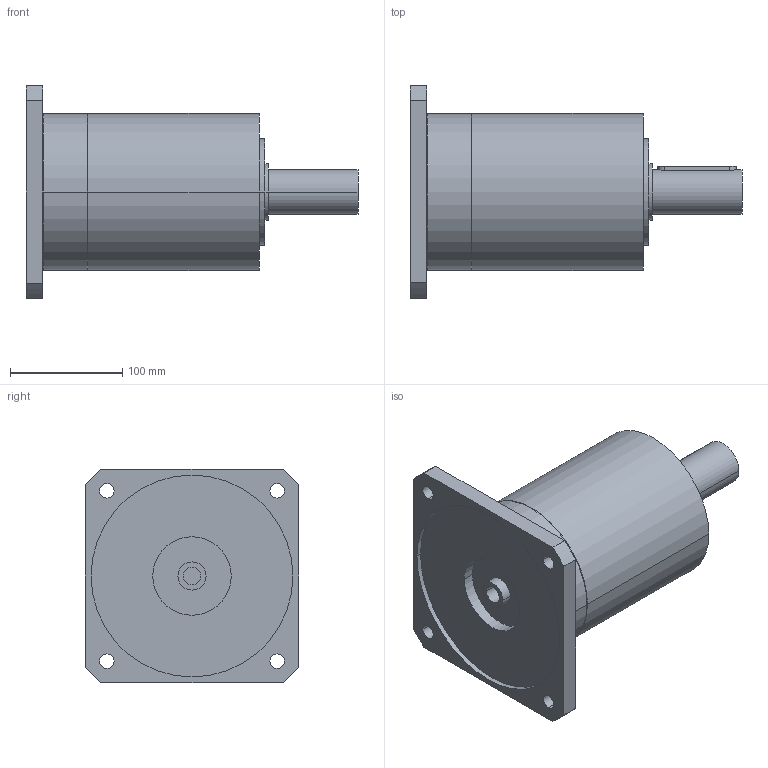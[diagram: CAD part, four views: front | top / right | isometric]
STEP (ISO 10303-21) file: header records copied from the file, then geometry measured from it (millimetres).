
FILE_DESCRIPTION(('CoCreate Modeling STEP Export'),'2;1');
FILE_NAME('GPR150_ig-9-12-16-20-28-35_40_B14_16_P06.stp','2014-08-19T17:03:00',(''),(''),'CoCreate Modeling STEP processor for AP214 (Solid Model)','CoCreate Modeling 16.00C 25-Feb-2009 (C) Parametric Technology GmbH','');
FILE_SCHEMA(('AUTOMOTIVE_DESIGN { 1 0 10303 214 1 1 1 1 }'));
Length unit declared in the file: millimetre
Products named in the file (2): GPR150_ig-9-12-16-20-28-35_40_B14_16_P06
Assembly tree (1 placements, depth 2):
  GPR150_ig-9-12-16-20-28-35_40_B14_16_P06
    GPR150_ig-9-12-16-20-28-35_40_B14_16_P06
Bounding box: 296 x 190 x 190 mm (x, y, z)
Volume: 3470962.9 mm3; surface area: 194222.3 mm2
Topology: 1 solids, 1 shells, 70 faces, 189 edges, 133 vertices
Faces by surface type: cylinder 42, plane 22, cone 6
Entity records: 1973 total; most frequent: CARTESIAN_POINT 386, ORIENTED_EDGE 374, DIRECTION 264, EDGE_CURVE 187, VERTEX_POINT 133, AXIS2_PLACEMENT_3D 99, EDGE_LOOP 92, FACE_OUTER_BOUND 70
